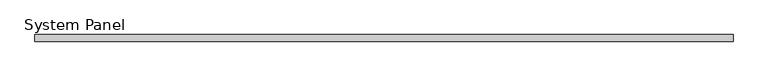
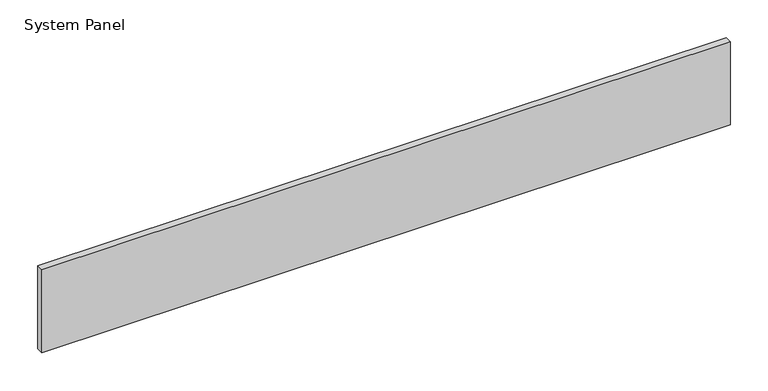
"""IFC4 building model written with IfcOpenShell, lengths in millimetres: plate geometry, System Panel : VACÍO."""

import ifcopenshell
import ifcopenshell.guid

model = None  # the IFC model being written
_history = None  # IfcOwnerHistory: only IFC2X3 demands one
_inside = {}  # id of a spatial element -> (the spatial element, [elements in it])
_under = {}  # id of a project, library or spatial element -> (it, [spatial elements below it])
_declared = {}  # id of a project -> (the project, [libraries it declares])
_typed = {}  # id of a type object -> (the type object, [elements of that type])
_made_of = {}  # id of a material, layer set ... -> (it, [elements and type objects made of it])


def new_model(schema):
    """Start an empty IFC model of exactly this schema.

    Asked for "IFC4X3", IfcOpenShell would pick the latest addendum, in which some entities
    have other attributes; the version numbers below select the first issue.
    IFC2X3 requires an IfcOwnerHistory on every rooted entity: one is made here for all.
    """
    global model, _history
    if schema == "IFC4X3":
        model = ifcopenshell.file(schema_version=(4, 3, 0, 0))
    else:
        model = ifcopenshell.file(schema=schema)
    _inside.clear()
    _under.clear()
    _declared.clear()
    _typed.clear()
    _made_of.clear()
    _history = None
    if model.schema == "IFC2X3":
        org = make("IfcOrganization", Name="unknown")
        user = make(
            "IfcPersonAndOrganization",
            ThePerson=make("IfcPerson", FamilyName="unknown"),
            TheOrganization=org,
        )
        app = make(
            "IfcApplication",
            ApplicationDeveloper=org,
            Version="unknown",
            ApplicationFullName="unknown",
            ApplicationIdentifier="unknown",
        )
        _history = make(
            "IfcOwnerHistory",
            OwningUser=user,
            OwningApplication=app,
            ChangeAction="ADDED",
            CreationDate=0,
        )
    return model


def make(cls, **values):
    """One entity of the class cls with the attributes given. An attribute that is None is left unset."""
    return model.create_entity(
        cls, **{name: value for name, value in values.items() if value is not None}
    )


def rooted(cls, **values):
    """An entity with a GlobalId (a new one), such as an element, a storey or a relation."""
    return make(cls, GlobalId=ifcopenshell.guid.new(), OwnerHistory=_history, **values)


def si_unit(unit_type, name, prefix=None):
    """IfcSIUnit, for example si_unit("LENGTHUNIT", "METRE", prefix="MILLI")."""
    return make("IfcSIUnit", UnitType=unit_type, Prefix=prefix, Name=name)


def assignment(units):
    """IfcUnitAssignment: the units of a project."""
    return None if units is None else make("IfcUnitAssignment", Units=units)


def point(xyz):
    """IfcCartesianPoint."""
    return None if xyz is None else make("IfcCartesianPoint", Coordinates=xyz)


def direction(xyz):
    """IfcDirection."""
    return None if xyz is None else make("IfcDirection", DirectionRatios=xyz)


def frame(location, z_axis=None, x_axis=None):
    """IfcAxis2Placement3D, a coordinate frame: its origin and axes. An axis left out is left unset."""
    return make(
        "IfcAxis2Placement3D",
        Location=point(location),
        Axis=direction(z_axis),
        RefDirection=direction(x_axis),
    )


def origin():
    """The frame at (0, 0, 0) with its axes left unset."""
    return frame((0.0, 0.0, 0.0))


def origin_with_axes():
    """The frame at (0, 0, 0) with the z axis (0, 0, 1) and the x axis (1, 0, 0) written out."""
    return frame((0.0, 0.0, 0.0), z_axis=(0.0, 0.0, 1.0), x_axis=(1.0, 0.0, 0.0))


def place(relative_to, where):
    """IfcLocalPlacement: puts the frame where relative to a parent placement (None: the world)."""
    return make(
        "IfcLocalPlacement", PlacementRelTo=relative_to, RelativePlacement=where
    )


def context(
    kind, dimensions, precision=None, world=None, true_north=None, identifier=None
):
    """IfcGeometricRepresentationContext, for example the 3D "Model" context."""
    return make(
        "IfcGeometricRepresentationContext",
        ContextIdentifier=identifier,
        ContextType=kind,
        CoordinateSpaceDimension=dimensions,
        Precision=precision,
        WorldCoordinateSystem=world,
        TrueNorth=true_north,
    )


def project(units=None, contexts=None):
    """IfcProject with its units and contexts."""
    return rooted(
        "IfcProject",
        Name="project",
        RepresentationContexts=contexts,
        UnitsInContext=assignment(units),
    )


def spatial(cls, under=None, at=None, **own):
    """A site, building, storey or space (cls), placed at a placement, below another one or the project."""
    s = rooted(cls, ObjectPlacement=at, **own)
    if under is not None:
        _under.setdefault(under.id(), (under, []))[1].append(s)
    return s


def polyline(points):
    """IfcPolyline through the points."""
    return make("IfcPolyline", Points=[point(p) for p in points])


def outline(outer, holes=None, kind="AREA"):
    """IfcArbitraryClosedProfileDef: a profile drawn as a closed curve; with holes, ...WithVoids."""
    if holes is None:
        return make("IfcArbitraryClosedProfileDef", ProfileType=kind, OuterCurve=outer)
    return make(
        "IfcArbitraryProfileDefWithVoids",
        ProfileType=kind,
        OuterCurve=outer,
        InnerCurves=holes,
    )


def extrude(swept, where, along, depth):
    """IfcExtrudedAreaSolid: the profile swept, set in the frame where, extruded along a direction by depth."""
    return make(
        "IfcExtrudedAreaSolid",
        SweptArea=swept,
        Position=where,
        ExtrudedDirection=direction(along),
        Depth=depth,
    )


def shape(context_of_items, identifier, shape_type, items):
    """IfcShapeRepresentation: the items that make up one representation, for example the "Body"."""
    return make(
        "IfcShapeRepresentation",
        ContextOfItems=context_of_items,
        RepresentationIdentifier=identifier,
        RepresentationType=shape_type,
        Items=items,
    )


def source(mapping_origin, context_of_items, identifier, shape_type, items):
    """IfcRepresentationMap: a shape defined once, which mapped items show again and again."""
    return make(
        "IfcRepresentationMap",
        MappingOrigin=mapping_origin,
        MappedRepresentation=shape(context_of_items, identifier, shape_type, items),
    )


def transform(
    local_origin,
    x_axis=None,
    y_axis=None,
    z_axis=None,
    scale=None,
    scale2=None,
    scale3=None,
    uniform=True,
):
    """IfcCartesianTransformationOperator3D, or its non-uniform kind. x_axis, y_axis, z_axis: its Axis1, 2, 3."""
    if uniform:
        return make(
            "IfcCartesianTransformationOperator3D",
            Axis1=direction(x_axis),
            Axis2=direction(y_axis),
            LocalOrigin=point(local_origin),
            Scale=scale,
            Axis3=direction(z_axis),
        )
    return make(
        "IfcCartesianTransformationOperator3DnonUniform",
        Axis1=direction(x_axis),
        Axis2=direction(y_axis),
        LocalOrigin=point(local_origin),
        Scale=scale,
        Axis3=direction(z_axis),
        Scale2=scale2,
        Scale3=scale3,
    )


def mapped(mapping_source, mapping_target):
    """IfcMappedItem: shows the shape of a source again, moved by a transform."""
    return make(
        "IfcMappedItem", MappingSource=mapping_source, MappingTarget=mapping_target
    )


def made_of(thing, what):
    """Note that an element or type object is made of a material, layer set ...; save() writes the relation."""
    if what is not None:
        _made_of.setdefault(what.id(), (what, []))[1].append(thing)
    return thing


def element(
    cls,
    number,
    at=None,
    inside=None,
    cuts=None,
    type_object=None,
    material=None,
    context=None,
    identifier="Body",
    shape_type=None,
    held_by="IfcProductDefinitionShape",
    body=None,
    shapes=None,
    **own,
):
    """One element of the class cls, such as IfcWall. Its Tag is "e" and its number.

    at: its placement. inside: the storey or other place that contains it. cuts: it is an
    opening in that element (IfcRelVoidsElement). A single representation is given by context,
    identifier, shape_type and body (its items); several are given by shapes. held_by: the class
    of the entity that holds the representations. save() writes the other relations.
    """
    e = rooted(cls, Tag="e%d" % number, ObjectPlacement=at, **own)
    if body is not None:
        shapes = [shape(context, identifier, shape_type, body)]
    if shapes is not None:
        e.Representation = make(held_by, Representations=shapes)
    if inside is not None:
        _inside.setdefault(inside.id(), (inside, []))[1].append(e)
    if cuts is not None:
        rooted(
            "IfcRelVoidsElement", RelatingBuildingElement=cuts, RelatedOpeningElement=e
        )
    if type_object is not None:
        _typed.setdefault(type_object.id(), (type_object, []))[1].append(e)
    return made_of(e, material)


def aggregate(whole, parts):
    """IfcRelAggregates: a whole, such as a stair, and the parts it consists of."""
    return rooted("IfcRelAggregates", RelatingObject=whole, RelatedObjects=parts)


def save(model, path):
    """Write the relations noted so far, then the file.

    IfcRelAggregates (storeys below a building ...), IfcRelContainedInSpatialStructure (elements
    in a storey), IfcRelDefinesByType, IfcRelAssociatesMaterial and IfcRelDeclares: one each for
    every whole, place, type object, material and project.
    """
    for whole, parts in _under.values():
        aggregate(whole, parts)
    for where, things in _inside.values():
        rooted(
            "IfcRelContainedInSpatialStructure",
            RelatedElements=things,
            RelatingStructure=where,
        )
    for kind, things in _typed.values():
        rooted("IfcRelDefinesByType", RelatedObjects=things, RelatingType=kind)
    for what, things in _made_of.values():
        rooted("IfcRelAssociatesMaterial", RelatedObjects=things, RelatingMaterial=what)
    for by, libraries in _declared.values():
        rooted("IfcRelDeclares", RelatingContext=by, RelatedDefinitions=libraries)
    model.write(path)


def system_panel_f97c738b(model_context):
    return source(origin(), model_context, "Body", "SweptSolid", [
        extrude(outline(polyline([(525.1249907, -5.0), (-525.1249907, -5.0), (-525.1249907, 5.0), (525.1249907, 5.0), (525.1249907, -5.0)])), origin_with_axes(), (0.0, 0.0, 1.0), 134.0),
    ])


if __name__ == "__main__":
    model = new_model("IFC4")
    model_context = context("Model", 3, world=origin())
    ifc_project = project(units=[si_unit("LENGTHUNIT", "METRE", prefix="MILLI")], contexts=[model_context])
    site = spatial("IfcSite", under=ifc_project)
    building = spatial("IfcBuilding", under=site)
    placement = place(None, origin())
    system_panel_shape = system_panel_f97c738b(model_context)
    element("IfcPlate", 1, ObjectType="System Panel : VACÍO", at=placement, inside=building, context=model_context, shape_type="MappedRepresentation", body=[
        mapped(system_panel_shape, transform((0.0, 0.0, 0.0), x_axis=(1.0, 0.0, 0.0), y_axis=(0.0, 1.0, 0.0), z_axis=(0.0, 0.0, 1.0))),
    ])
    save(model, "model.ifc")
